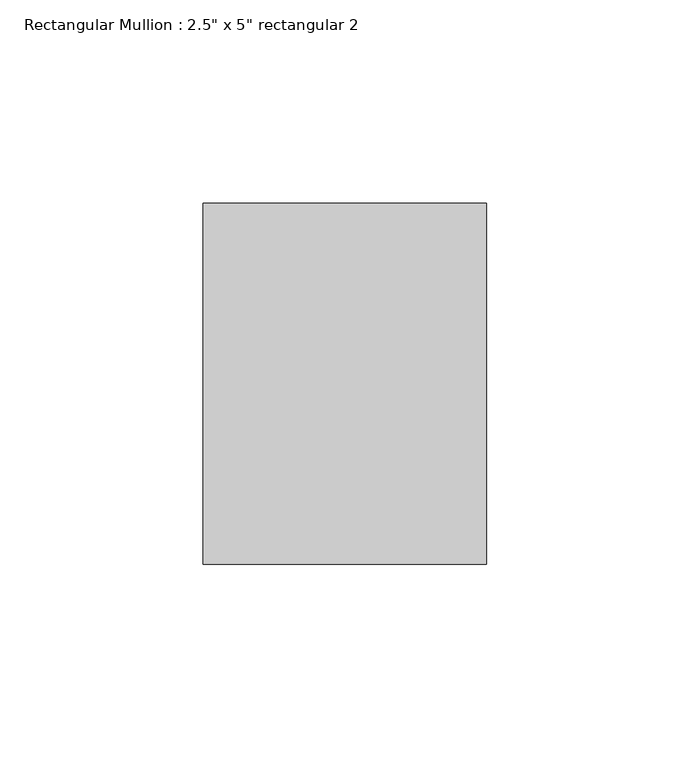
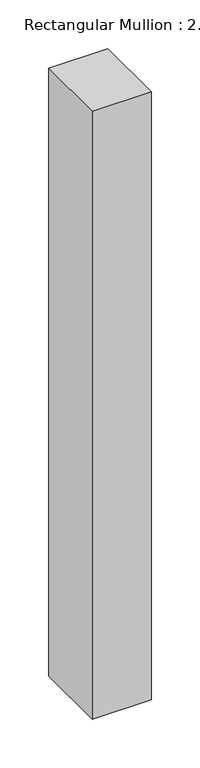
"""IFC4 building model written with IfcOpenShell, lengths in millimetres: member geometry."""

from ifc_helpers import new_model, si_unit, frame, origin, place, context, project, spatial, polyline, outline, extrude, source, transform, mapped, element, save


def member_8c67bc84(model_context):
    return source(origin(), model_context, "Body", "SweptSolid", [
        extrude(outline(polyline([(38.1, 44.45), (38.1, -44.45), (-31.75, -44.45), (-31.75, 44.45), (38.1, 44.45)])), frame((0.0, 0.0, -761.107202), z_axis=(0.0, 0.0, 1.0), x_axis=(1.0, 0.0, 0.0)), (0.0, 0.0, 1.0), 761.107202),
    ])


if __name__ == "__main__":
    model = new_model("IFC4")
    model_context = context("Model", 3, world=origin())
    ifc_project = project(units=[si_unit("LENGTHUNIT", "METRE", prefix="MILLI")], contexts=[model_context])
    site = spatial("IfcSite", under=ifc_project)
    building = spatial("IfcBuilding", under=site)
    placement = place(None, origin())
    member_shape = member_8c67bc84(model_context)
    element("IfcMember", 1, ObjectType="Rectangular Mullion : 2.5\" x 5\" rectangular 2", at=placement, inside=building, context=model_context, shape_type="MappedRepresentation", body=[
        mapped(member_shape, transform((0.0, 0.0, 0.0), x_axis=(1.0, 0.0, 0.0), y_axis=(0.0, 1.0, 0.0), z_axis=(0.0, 0.0, 1.0))),
    ])
    save(model, "model.ifc")
